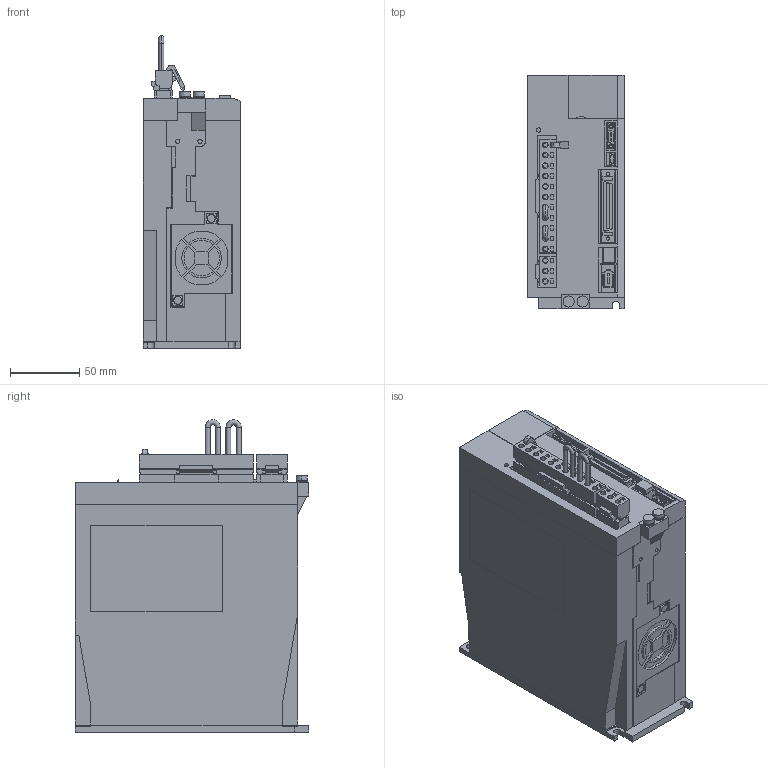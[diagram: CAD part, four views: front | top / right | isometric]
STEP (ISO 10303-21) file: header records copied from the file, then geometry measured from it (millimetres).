
FILE_DESCRIPTION (( 'STEP AP203' ), '1' );
FILE_NAME ('sgd7s_7r6a00a.STEP', '2014-03-06T04:31:09', ( '匠エンジニアリング山之内' ), ( 'TAKUMI-Engniaring' ), 'SwSTEP 2.0', 'SolidWorks 2006303', '' );
FILE_SCHEMA (( 'CONFIG_CONTROL_DESIGN' ));
Products named in the file (10): sgd7s_7r6a00a_connector_2; sgd7s_7r6a00a_connector_3; sgd7s_7r6a00a; sgd7s_7r6a00a_base; sgd7s_7r6a00a_connector; sgd7s_7r6a00a_pin; sgd7s_7r6a00a_cable; sgd7s_7r6a00a_connector_1; sgd7s_7r6a00a_cover; sgd7s_7r6a00a_cover2
Assembly tree (11 placements, depth 3):
  sgd7s_7r6a00a
    sgd7s_7r6a00a_connector
      sgd7s_7r6a00a_cable  x2
      sgd7s_7r6a00a_connector_2
      sgd7s_7r6a00a_pin
    sgd7s_7r6a00a_connector_1
    sgd7s_7r6a00a_connector_3
    sgd7s_7r6a00a_base
    sgd7s_7r6a00a_cover
    sgd7s_7r6a00a_cover2  x2
Bounding box: 70.5 x 168 x 225 mm (x, y, z)
Volume: 1991259.4 mm3; surface area: 152137 mm2
Topology: 10 solids, 10 shells, 1739 faces, 4466 edges, 2945 vertices
Faces by surface type: plane 1462, cylinder 268, torus 4, cone 4, sphere 1
Entity records: 52229 total; most frequent: CARTESIAN_POINT 8998, ORIENTED_EDGE 8772, DIRECTION 8359, EDGE_CURVE 4386, LINE 3851, VECTOR 3851, VERTEX_POINT 2893, AXIS2_PLACEMENT_3D 2254
